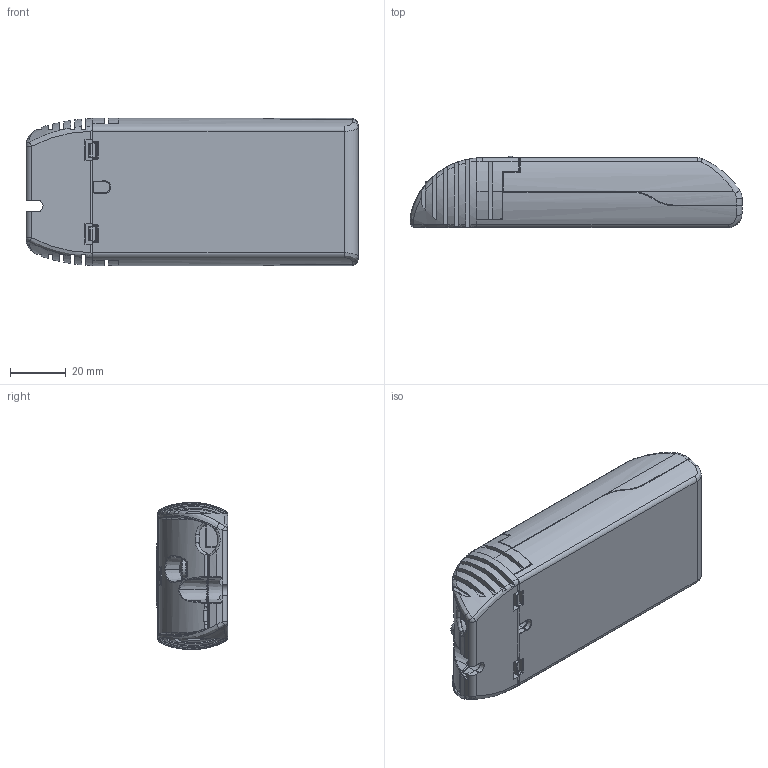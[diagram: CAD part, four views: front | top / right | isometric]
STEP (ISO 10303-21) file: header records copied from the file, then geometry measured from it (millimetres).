
FILE_DESCRIPTION (( 'STEP AP214' ), '1' );
FILE_NAME ('OTe-10-13-KitAssembly_CADexport.STEP', '2013-09-06T06:50:55', ( '' ), ( '' ), 'SwSTEP 2.0', 'SolidWorks 2012', '' );
FILE_SCHEMA (( 'AUTOMOTIVE_DESIGN' ));
Length unit declared in the file: millimetre
Products named in the file (1): OTe-10-13-KitAssembly_CADexport
Bounding box: 119 x 25.57 x 52.8 mm (x, y, z)
Volume: 117799.1 mm3; surface area: 36475.8 mm2
Topology: 6 solids, 14 shells, 2065 faces, 5353 edges, 3300 vertices
Faces by surface type: plane 821, cylinder 512, bspline 454, cone 102, sphere 90, torus 86
Entity records: 105024 total; most frequent: CARTESIAN_POINT 37015, ORIENTED_EDGE 10526, DIRECTION 7894, EDGE_CURVE 5263, VERTEX_POINT 3286, AXIS2_PLACEMENT_3D 2651, LINE 2592, VECTOR 2592
